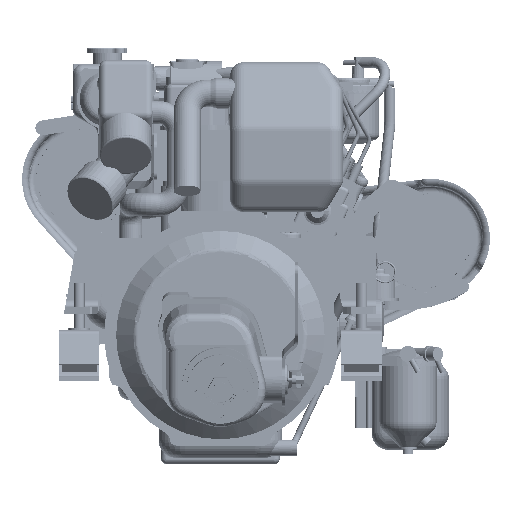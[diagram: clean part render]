
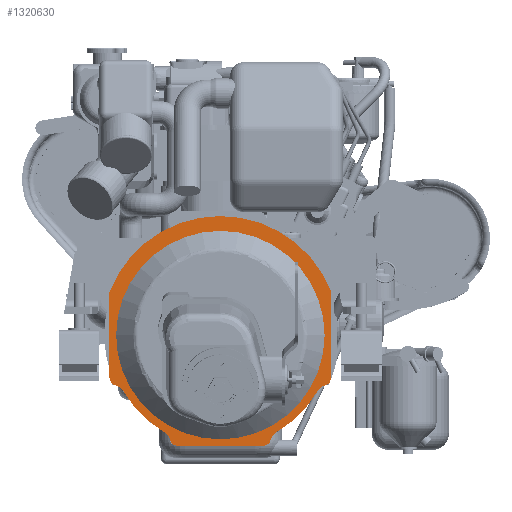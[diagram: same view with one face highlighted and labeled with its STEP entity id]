
A CAD part, top view. The second image highlights one B-rep face of the part: STEP entity #1320630.
In plain terms, the highlighted planar face has unit normal (0, 0, 1).
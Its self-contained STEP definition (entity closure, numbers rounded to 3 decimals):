
#1316970=CARTESIAN_POINT('',(-156.62,-74.479,170.));
#1316980=VERTEX_POINT('',#1316970);
#1317010=CARTESIAN_POINT('',(-161.363,-93.909,170.));
#1317020=DIRECTION('',(0.,0.,-1.));
#1317030=DIRECTION('',(1.,0.,0.));
#1317040=AXIS2_PLACEMENT_3D('',#1317010,#1317020,#1317030);
#1317050=CIRCLE('',#1317040,20.);
#1317060=CARTESIAN_POINT('',(-144.077,-83.849,170.));
#1317070=VERTEX_POINT('',#1317060);
#1317080=EDGE_CURVE('',#1316980,#1317070,#1317050,.T.);
#1318480=CARTESIAN_POINT('',(-165.511,177.5,170.));
#1318490=DIRECTION('',(0.,0.,1.));
#1318500=DIRECTION('',(1.,0.,0.));
#1318510=AXIS2_PLACEMENT_3D('',#1318480,#1318490,#1318500);
#1318520=PLANE('',#1318510);
#1318530=CARTESIAN_POINT('',(93.909,-161.363,170.));
#1318540=DIRECTION('',(0.,0.,-1.));
#1318550=DIRECTION('',(1.,0.,0.));
#1318560=AXIS2_PLACEMENT_3D('',#1318530,#1318540,#1318550);
#1318570=CIRCLE('',#1318560,20.);
#1318580=CARTESIAN_POINT('',(74.479,-156.62,170.));
#1318590=VERTEX_POINT('',#1318580);
#1318600=CARTESIAN_POINT('',(83.849,-144.077,170.));
#1318610=VERTEX_POINT('',#1318600);
#1318620=EDGE_CURVE('',#1318590,#1318610,#1318570,.T.);
#1318630=ORIENTED_EDGE('',*,*,#1318620,.T.);
#1318640=CARTESIAN_POINT('',(63.793,-154.011,170.));
#1318650=DIRECTION('',(0.,0.,1.));
#1318660=DIRECTION('',(-1.,0.,0.));
#1318670=AXIS2_PLACEMENT_3D('',#1318640,#1318650,#1318660);
#1318680=CIRCLE('',#1318670,11.);
#1318690=CARTESIAN_POINT('',(71.394,-161.963,170.));
#1318700=VERTEX_POINT('',#1318690);
#1318710=EDGE_CURVE('',#1318700,#1318590,#1318680,.T.);
#1318720=ORIENTED_EDGE('',*,*,#1318710,.T.);
#1318730=CARTESIAN_POINT('',(0.,0.,
170.));
#1318740=DIRECTION('',(0.,0.,-1.));
#1318750=DIRECTION('',(1.,0.,0.));
#1318760=AXIS2_PLACEMENT_3D('',#1318730,#1318740,#1318750);
#1318770=CIRCLE('',#1318760,177.);
#1318780=CARTESIAN_POINT('',(64.042,-165.008,170.));
#1318790=VERTEX_POINT('',#1318780);
#1318800=EDGE_CURVE('',#1318700,#1318790,#1318770,.T.);
#1318810=ORIENTED_EDGE('',*,*,#1318800,.F.);
#1318820=CARTESIAN_POINT('',(63.793,-154.011,170.));
#1318830=DIRECTION('',(0.,0.,1.));
#1318840=DIRECTION('',(-1.,0.,0.));
#1318850=AXIS2_PLACEMENT_3D('',#1318820,#1318830,#1318840);
#1318860=CIRCLE('',#1318850,11.);
#1318870=CARTESIAN_POINT('',(63.308,-165.,170.));
#1318880=VERTEX_POINT('',#1318870);
#1318890=EDGE_CURVE('',#1318880,#1318790,#1318860,.T.);
#1318900=ORIENTED_EDGE('',*,*,#1318890,.T.);
#1318910=CARTESIAN_POINT('',(0.,-165.,170.));
#1318920=DIRECTION('',(1.,0.,0.));
#1318930=VECTOR('',#1318920,1.);
#1318940=LINE('',#1318910,#1318930);
#1318950=CARTESIAN_POINT('',(-63.308,-165.,170.));
#1318960=VERTEX_POINT('',#1318950);
#1318970=EDGE_CURVE('',#1318960,#1318880,#1318940,.T.);
#1318980=ORIENTED_EDGE('',*,*,#1318970,.T.);
#1318990=CARTESIAN_POINT('',(-63.793,-154.011,170.));
#1319000=DIRECTION('',(0.,0.,1.));
#1319010=DIRECTION('',(-1.,0.,0.));
#1319020=AXIS2_PLACEMENT_3D('',#1318990,#1319000,#1319010);
#1319030=CIRCLE('',#1319020,11.);
#1319040=CARTESIAN_POINT('',(-64.042,-165.008,170.));
#1319050=VERTEX_POINT('',#1319040);
#1319060=EDGE_CURVE('',#1319050,#1318960,#1319030,.T.);
#1319070=ORIENTED_EDGE('',*,*,#1319060,.T.);
#1319080=CARTESIAN_POINT('',(0.,0.,
170.));
#1319090=DIRECTION('',(0.,0.,-1.));
#1319100=DIRECTION('',(1.,0.,0.));
#1319110=AXIS2_PLACEMENT_3D('',#1319080,#1319090,#1319100);
#1319120=CIRCLE('',#1319110,177.);
#1319130=CARTESIAN_POINT('',(-71.394,-161.963,170.));
#1319140=VERTEX_POINT('',#1319130);
#1319150=EDGE_CURVE('',#1319050,#1319140,#1319120,.T.);
#1319160=ORIENTED_EDGE('',*,*,#1319150,.F.);
#1319170=CARTESIAN_POINT('',(-63.793,-154.011,170.));
#1319180=DIRECTION('',(0.,0.,1.));
#1319190=DIRECTION('',(-1.,0.,0.));
#1319200=AXIS2_PLACEMENT_3D('',#1319170,#1319180,#1319190);
#1319210=CIRCLE('',#1319200,11.);
#1319220=CARTESIAN_POINT('',(-74.479,-156.62,170.));
#1319230=VERTEX_POINT('',#1319220);
#1319240=EDGE_CURVE('',#1319230,#1319140,#1319210,.T.);
#1319250=ORIENTED_EDGE('',*,*,#1319240,.T.);
#1319260=CARTESIAN_POINT('',(-93.909,-161.363,170.));
#1319270=DIRECTION('',(0.,0.,-1.));
#1319280=DIRECTION('',(1.,0.,0.));
#1319290=AXIS2_PLACEMENT_3D('',#1319260,#1319270,#1319280);
#1319300=CIRCLE('',#1319290,20.);
#1319310=CARTESIAN_POINT('',(-83.849,-144.077,170.));
#1319320=VERTEX_POINT('',#1319310);
#1319330=EDGE_CURVE('',#1319320,#1319230,#1319300,.T.);
#1319340=ORIENTED_EDGE('',*,*,#1319330,.T.);
#1319350=CARTESIAN_POINT('',(0.,0.,
170.));
#1319360=DIRECTION('',(0.,0.,1.));
#1319370=DIRECTION('',(-1.,0.,0.));
#1319380=AXIS2_PLACEMENT_3D('',#1319350,#1319360,#1319370);
#1319390=CIRCLE('',#1319380,166.7);
#1319400=EDGE_CURVE('',#1317070,#1319320,#1319390,.T.);
#1319410=ORIENTED_EDGE('',*,*,#1319400,.T.);
#1319420=ORIENTED_EDGE('',*,*,#1317080,.T.);
#1319430=CARTESIAN_POINT('',(-154.011,-63.793,170.));
#1319440=DIRECTION('',(0.,0.,1.));
#1319450=DIRECTION('',(-1.,0.,0.));
#1319460=AXIS2_PLACEMENT_3D('',#1319430,#1319440,#1319450);
#1319470=CIRCLE('',#1319460,11.);
#1319480=CARTESIAN_POINT('',(-161.963,-71.394,170.));
#1319490=VERTEX_POINT('',#1319480);
#1319500=EDGE_CURVE('',#1319490,#1316980,#1319470,.T.);
#1319510=ORIENTED_EDGE('',*,*,#1319500,.T.);
#1319520=CARTESIAN_POINT('',(0.,0.,
170.));
#1319530=DIRECTION('',(0.,0.,-1.));
#1319540=DIRECTION('',(1.,0.,0.));
#1319550=AXIS2_PLACEMENT_3D('',#1319520,#1319530,#1319540);
#1319560=CIRCLE('',#1319550,177.);
#1319570=CARTESIAN_POINT('',(-165.008,-64.042,170.));
#1319580=VERTEX_POINT('',#1319570);
#1319590=EDGE_CURVE('',#1319490,#1319580,#1319560,.T.);
#1319600=ORIENTED_EDGE('',*,*,#1319590,.F.);
#1319610=CARTESIAN_POINT('',(-154.011,-63.793,170.));
#1319620=DIRECTION('',(0.,0.,1.));
#1319630=DIRECTION('',(-1.,0.,0.));
#1319640=AXIS2_PLACEMENT_3D('',#1319610,#1319620,#1319630);
#1319650=CIRCLE('',#1319640,11.);
#1319660=CARTESIAN_POINT('',(-165.011,-63.793,170.));
#1319670=VERTEX_POINT('',#1319660);
#1319680=EDGE_CURVE('',#1319670,#1319580,#1319650,.T.);
#1319690=ORIENTED_EDGE('',*,*,#1319680,.T.);
#1319700=CARTESIAN_POINT('',(-165.,-63.308,170.));
#1319710=VERTEX_POINT('',#1319700);
#1319720=EDGE_CURVE('',#1319710,#1319670,#1319650,.T.);
#1319730=ORIENTED_EDGE('',*,*,#1319720,.T.);
#1319740=CARTESIAN_POINT('',(-165.,0.,170.));
#1319750=DIRECTION('',(0.,-1.,0.));
#1319760=VECTOR('',#1319750,1.);
#1319770=LINE('',#1319740,#1319760);
#1319780=CARTESIAN_POINT('',(-165.,64.062,170.));
#1319790=VERTEX_POINT('',#1319780);
#1319800=EDGE_CURVE('',#1319790,#1319710,#1319770,.T.);
#1319810=ORIENTED_EDGE('',*,*,#1319800,.T.);
#1319820=CARTESIAN_POINT('',(0.,0.,
170.));
#1319830=DIRECTION('',(0.,0.,-1.));
#1319840=DIRECTION('',(1.,0.,0.));
#1319850=AXIS2_PLACEMENT_3D('',#1319820,#1319830,#1319840);
#1319860=CIRCLE('',#1319850,177.);
#1319870=CARTESIAN_POINT('',(165.,64.062,170.));
#1319880=VERTEX_POINT('',#1319870);
#1319890=EDGE_CURVE('',#1319790,#1319880,#1319860,.T.);
#1319900=ORIENTED_EDGE('',*,*,#1319890,.F.);
#1319910=CARTESIAN_POINT('',(165.,0.,170.));
#1319920=DIRECTION('',(0.,1.,0.));
#1319930=VECTOR('',#1319920,1.);
#1319940=LINE('',#1319910,#1319930);
#1319950=CARTESIAN_POINT('',(165.,-63.308,170.));
#1319960=VERTEX_POINT('',#1319950);
#1319970=EDGE_CURVE('',#1319960,#1319880,#1319940,.T.);
#1319980=ORIENTED_EDGE('',*,*,#1319970,.T.);
#1319990=CARTESIAN_POINT('',(154.011,-63.793,170.));
#1320000=DIRECTION('',(0.,0.,1.));
#1320010=DIRECTION('',(-1.,0.,0.));
#1320020=AXIS2_PLACEMENT_3D('',#1319990,#1320000,#1320010);
#1320030=CIRCLE('',#1320020,11.);
#1320040=CARTESIAN_POINT('',(165.011,-63.793,170.));
#1320050=VERTEX_POINT('',#1320040);
#1320060=EDGE_CURVE('',#1320050,#1319960,#1320030,.T.);
#1320070=ORIENTED_EDGE('',*,*,#1320060,.T.);
#1320080=CARTESIAN_POINT('',(165.008,-64.042,170.));
#1320090=VERTEX_POINT('',#1320080);
#1320100=EDGE_CURVE('',#1320090,#1320050,#1320030,.T.);
#1320110=ORIENTED_EDGE('',*,*,#1320100,.T.);
#1320120=CARTESIAN_POINT('',(0.,0.,
170.));
#1320130=DIRECTION('',(0.,0.,-1.));
#1320140=DIRECTION('',(1.,0.,0.));
#1320150=AXIS2_PLACEMENT_3D('',#1320120,#1320130,#1320140);
#1320160=CIRCLE('',#1320150,177.);
#1320170=CARTESIAN_POINT('',(161.963,-71.394,170.));
#1320180=VERTEX_POINT('',#1320170);
#1320190=EDGE_CURVE('',#1320090,#1320180,#1320160,.T.);
#1320200=ORIENTED_EDGE('',*,*,#1320190,.F.);
#1320210=CARTESIAN_POINT('',(154.011,-63.793,170.));
#1320220=DIRECTION('',(0.,0.,1.));
#1320230=DIRECTION('',(-1.,0.,0.));
#1320240=AXIS2_PLACEMENT_3D('',#1320210,#1320220,#1320230);
#1320250=CIRCLE('',#1320240,11.);
#1320260=CARTESIAN_POINT('',(156.62,-74.479,170.));
#1320270=VERTEX_POINT('',#1320260);
#1320280=EDGE_CURVE('',#1320270,#1320180,#1320250,.T.);
#1320290=ORIENTED_EDGE('',*,*,#1320280,.T.);
#1320300=CARTESIAN_POINT('',(161.363,-93.909,170.));
#1320310=DIRECTION('',(0.,0.,-1.));
#1320320=DIRECTION('',(1.,0.,0.));
#1320330=AXIS2_PLACEMENT_3D('',#1320300,#1320310,#1320320);
#1320340=CIRCLE('',#1320330,20.);
#1320350=CARTESIAN_POINT('',(144.077,-83.849,170.));
#1320360=VERTEX_POINT('',#1320350);
#1320370=EDGE_CURVE('',#1320360,#1320270,#1320340,.T.);
#1320380=ORIENTED_EDGE('',*,*,#1320370,.T.);
#1320390=CARTESIAN_POINT('',(0.,0.,
170.));
#1320400=DIRECTION('',(0.,0.,1.));
#1320410=DIRECTION('',(-1.,0.,0.));
#1320420=AXIS2_PLACEMENT_3D('',#1320390,#1320400,#1320410);
#1320430=CIRCLE('',#1320420,166.7);
#1320440=EDGE_CURVE('',#1318610,#1320360,#1320430,.T.);
#1320450=ORIENTED_EDGE('',*,*,#1320440,.T.);
#1320460=EDGE_LOOP('',(#1320450,#1320380,#1320290,#1320200,#1320110,
#1320070,#1319980,#1319900,#1319810,#1319730,#1319690,#1319600,#1319510,
#1319420,#1319410,#1319340,#1319250,#1319160,#1319070,#1318980,#1318900,
#1318810,#1318720,#1318630));
#1320470=FACE_OUTER_BOUND('',#1320460,.T.);
#1320480=CARTESIAN_POINT('',(0.,0.,170.));
#1320490=DIRECTION('',(0.,0.,-1.));
#1320500=DIRECTION('',(-1.,0.,0.));
#1320510=AXIS2_PLACEMENT_3D('',#1320480,#1320490,#1320500);
#1320520=CIRCLE('',#1320510,155.);
#1320530=CARTESIAN_POINT('',(-155.,0.,170.));
#1320540=VERTEX_POINT('',#1320530);
#1320550=CARTESIAN_POINT('',(155.,0.,170.));
#1320560=VERTEX_POINT('',#1320550);
#1320570=EDGE_CURVE('',#1320540,#1320560,#1320520,.T.);
#1320580=ORIENTED_EDGE('',*,*,#1320570,.T.);
#1320590=EDGE_CURVE('',#1320560,#1320540,#1320520,.T.);
#1320600=ORIENTED_EDGE('',*,*,#1320590,.T.);
#1320610=EDGE_LOOP('',(#1320600,#1320580));
#1320620=FACE_BOUND('',#1320610,.T.);
#1320630=ADVANCED_FACE('',(#1320470,#1320620),#1318520,.T.);
